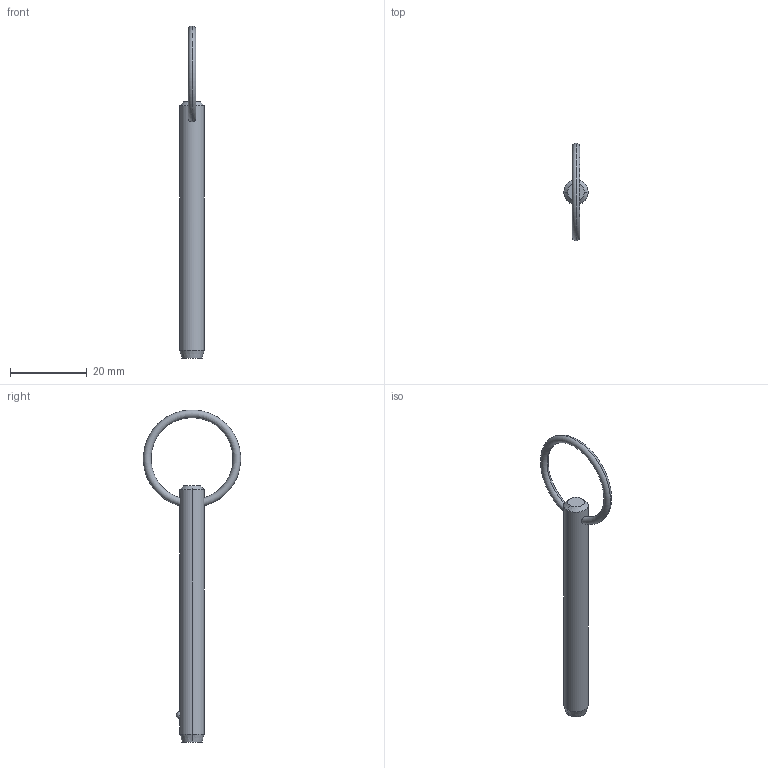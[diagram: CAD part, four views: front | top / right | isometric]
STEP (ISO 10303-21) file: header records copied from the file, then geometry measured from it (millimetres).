
FILE_DESCRIPTION (( 'STEP AP203' ), '1' );
FILE_NAME ('P1250.025-210.step', '2019-07-29T19:42:20', ( '' ), ( '' ), 'SwSTEP 2.0', 'SolidWorks 2017', '' );
FILE_SCHEMA (( 'CONFIG_CONTROL_DESIGN' ));
Length unit declared in the file: millimetre
Products named in the file (1): P1250.025-210
Bounding box: 6.35 x 25.38 x 86.62 mm (x, y, z)
Volume: 2309.2 mm3; surface area: 1790 mm2
Topology: 1 solids, 1 shells, 12 faces, 28 edges, 17 vertices
Faces by surface type: cone 4, torus 2, sphere 2, cylinder 2, plane 2
Entity records: 481 total; most frequent: CARTESIAN_POINT 148, DIRECTION 56, ORIENTED_EDGE 48, AXIS2_PLACEMENT_3D 25, EDGE_CURVE 24, VERTEX_POINT 15, EDGE_LOOP 15, FACE_OUTER_BOUND 12
